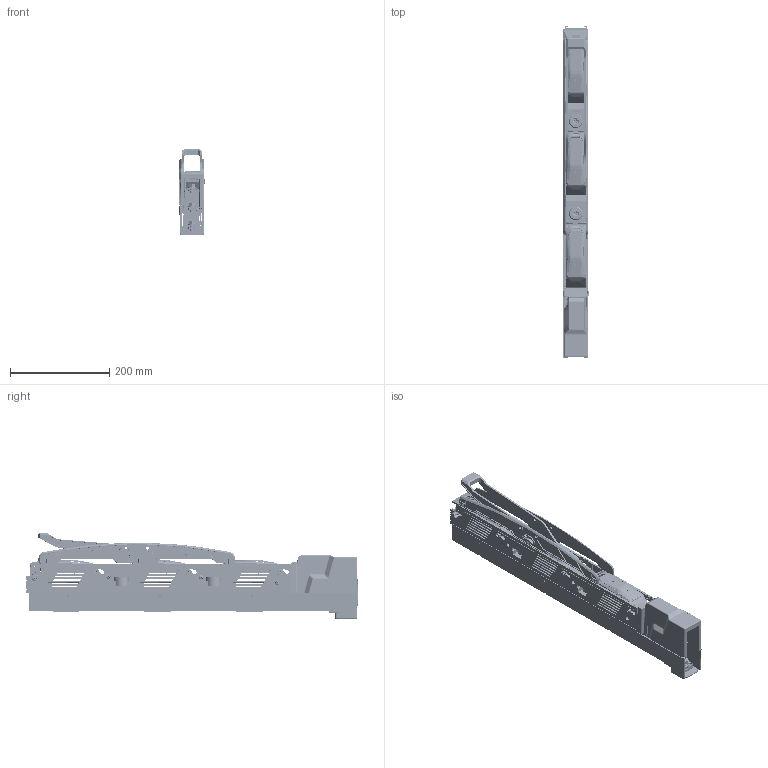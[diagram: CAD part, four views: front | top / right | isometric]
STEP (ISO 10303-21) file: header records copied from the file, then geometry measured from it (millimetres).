
FILE_DESCRIPTION (( 'STEP AP214' ), '1' );
FILE_NAME ('160L.STEP', '2025-12-30T10:11:22', ( '' ), ( '' ), 'SwSTEP 2.0', 'SolidWorks 2024', '' );
FILE_SCHEMA (( 'AUTOMOTIVE_DESIGN' ));
Length unit declared in the file: millimetre
Products named in the file (30): DIZUO.stp; 160-S-DULISHOUBING-20240402.stp; YOUCEBIAN_1.stp; MIEHUZHAO_1.stp; SHIZISUO_1.stp; 7_100_1.stp; MIEHUSHANPIAN_1.stp; CHANGSHOUBINZUHETI_ASM.stp; LIANGAN.stp; TOUMINGJIANZUHE_ASM_1.stp; 160L; ZUOCEBIAN_1.stp; XIAOLIANJIANPIAN_1.stp; CHANGLIANJIEPIAN_1.stp; 160-000.stp; WEIZUO_1.stp; GB_T845-ST4_2X19-C_1.stp; MIEHUZHAOZUJIAN_ASM_1.stp; DUANCHUTOU_1.stp; GB_T819_1-M4X12_1.stp; GB_T6170-M8_1.stp; ZHONGLIANJIEPIAN_1.stp; CHANGCHUTOU_1.stp; ZHICHENGJIANSHOUBING_ASM.stp; WEIDONGKAIGUAN_1.stp; 4_100_1.stp; CHANGCHUTOUYAOXINGKONG_1.stp; GB_T9074_17_M8X16_1.stp; DINGWEIJIAN_1.stp; 160L.stp
Assembly tree (59 placements, depth 5):
  160L
    160L.stp
      MIEHUZHAOZUJIAN_ASM_1.stp  x3
        MIEHUZHAO_1.stp
        MIEHUSHANPIAN_1.stp
      CHANGSHOUBINZUHETI_ASM.stp
        TOUMINGJIANZUHE_ASM_1.stp
          4_100_1.stp
          7_100_1.stp
        160-000.stp
      ZHICHENGJIANSHOUBING_ASM.stp  x2
        TOUMINGJIANZUHE_ASM_1.stp
          4_100_1.stp
          7_100_1.stp
        160-S-DULISHOUBING-20240402.stp
      ZUOCEBIAN_1.stp
      YOUCEBIAN_1.stp
      DIZUO.stp
      DINGWEIJIAN_1.stp  x3
      CHANGLIANJIEPIAN_1.stp
      ZHONGLIANJIEPIAN_1.stp
      XIAOLIANJIANPIAN_1.stp
      DUANCHUTOU_1.stp  x3
      SHIZISUO_1.stp  x2
      WEIZUO_1.stp
      CHANGCHUTOUYAOXINGKONG_1.stp  x2
      CHANGCHUTOU_1.stp
      GB_T6170-M8_1.stp  x3
      GB_T819_1-M4X12_1.stp  x7
      GB_T9074_17_M8X16_1.stp  x6
      GB_T845-ST4_2X19-C_1.stp  x4
      LIANGAN.stp  x2
      WEIDONGKAIGUAN_1.stp  x2
Bounding box: 50.9 x 669.52 x 172.48 mm (x, y, z)
Volume: 983108.9 mm3; surface area: 902446.4 mm2
Topology: 69 solids, 69 shells, 12414 faces, 33880 edges, 21511 vertices
Faces by surface type: plane 6555, cylinder 3313, bspline 991, cone 784, torus 714, sphere 57
Entity records: 349947 total; most frequent: CARTESIAN_POINT 124909, ORIENTED_EDGE 51024, DIRECTION 40665, EDGE_CURVE 25512, VERTEX_POINT 16310, VECTOR 14487, LINE 14487, AXIS2_PLACEMENT_3D 13089
